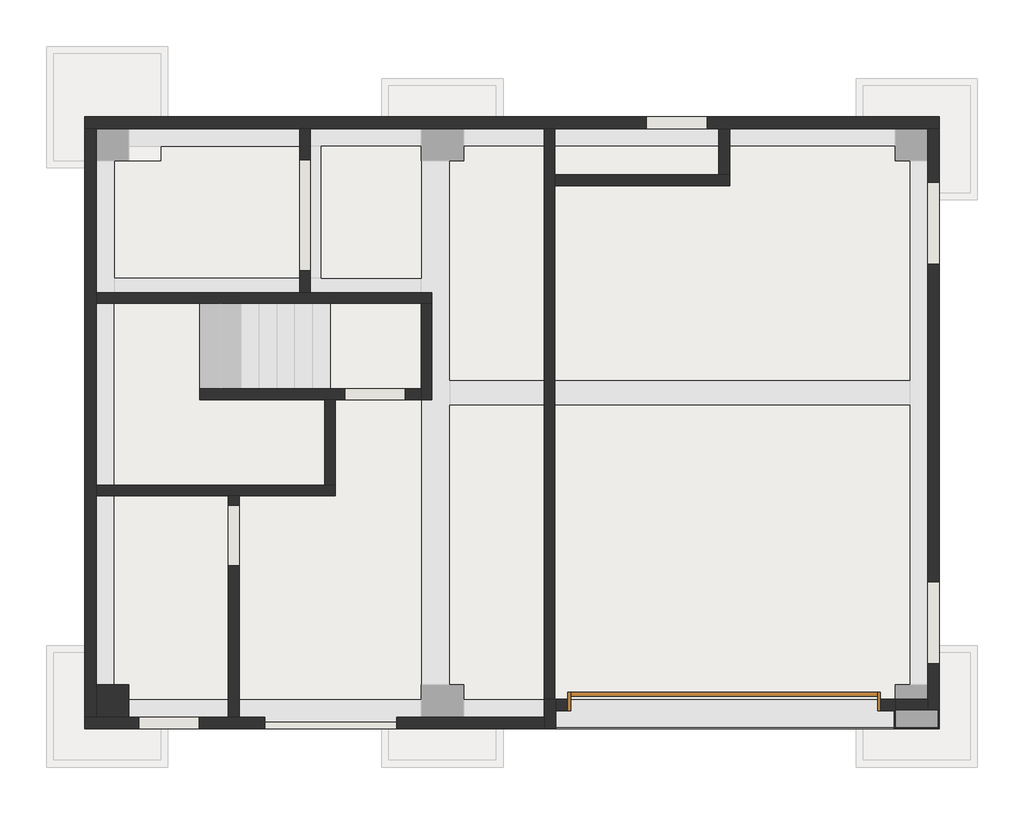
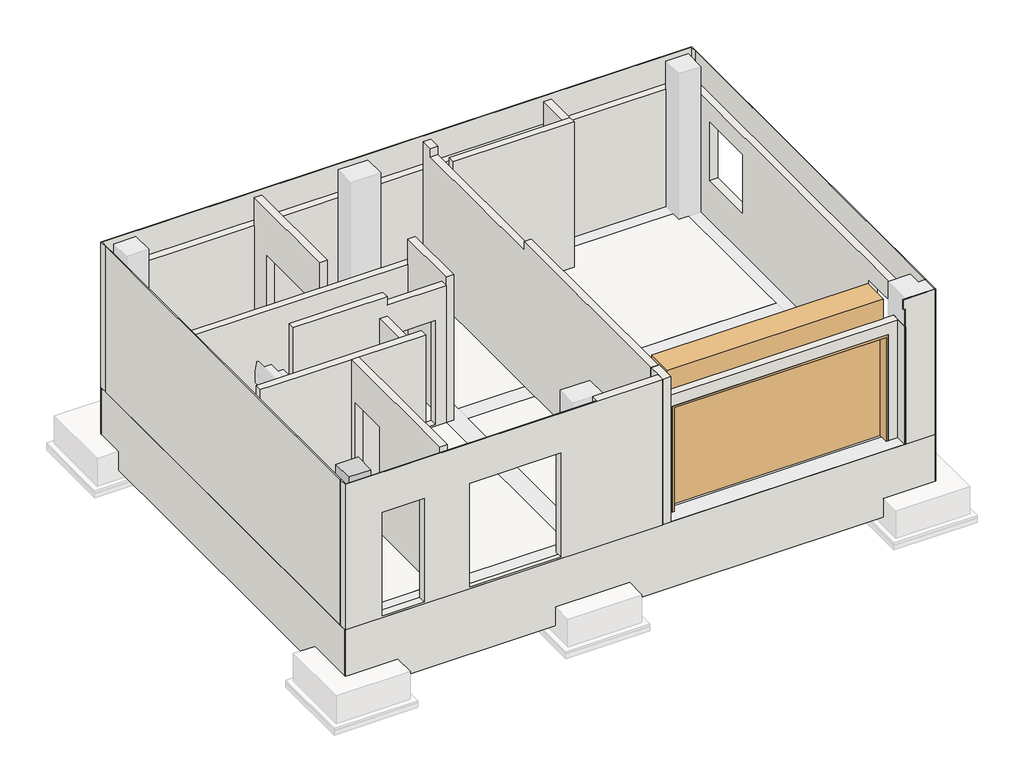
# One storey, part 1 of 2: 26 walls, 5 slabs, 1 column, 1 door.
"""IFC4 building model written with IfcOpenShell, lengths in millimetres."""

from ifc_helpers import new_model, si_unit, frame, origin, origin_with_axes, place, context, project, spatial, polyline, outline, extrude, faceted_brep, transform, mapped, element, save
from components import w4300h2235_e8c8d852

model = new_model("IFC4")

# Units and contexts
model_context = context("Model", 3, world=origin())
ifc_project = project(units=[si_unit("LENGTHUNIT", "METRE", prefix="MILLI")], contexts=[model_context])

# Site, building, storey
site = spatial("IfcSite", under=ifc_project)
building = spatial("IfcBuilding", under=site)
storey = spatial("IfcBuildingStorey", under=building, Name="GL＝1SL", Elevation=0.0)

# Column
placement = place(None, origin())
element("IfcColumn", 1, ObjectType="角柱 : 600 x 600mm", at=placement, inside=storey, context=model_context, shape_type="Brep", body=[
    faceted_brep([(-3181.7658988, -4851.3998484, 3120.0), (-3181.7658988, -4401.3998484, 3120.0), (-3631.7658988, -4401.3998484, 3120.0), (-3631.7658988, -4851.3998484, 3120.0), (-3181.7658988, -4401.3998484, -1000.0), (-3181.7658988, -5001.3998484, -1000.0), (-3781.7658988, -5001.3998484, -1000.0), (-3781.7658988, -4401.3998484, -1000.0), (-3781.7658988, -4401.3998484, 0.0), (-3631.7658988, -4401.3998484, 0.0), (-3781.7658988, -5001.3998484, 0.0), (-3781.7658988, -4851.3998484, 0.0), (-3181.7658988, -5001.3998484, 0.0), (-3181.7658988, -4851.3998484, 0.0), (-3631.7658988, -4851.3998484, 2520.0), (-3631.7658988, -4851.3998484, 0.0)], [[[0, 1, 2, 3]], [[4, 5, 6, 7]], [[4, 7, 8, 9, 2, 1]], [[7, 6, 10, 11, 8]], [[6, 5, 12, 10]], [[5, 4, 1, 0, 13, 12]], [[13, 0, 3, 14, 15]], [[9, 15, 14, 3, 2]], [[11, 10, 12, 13, 15]], [[15, 9, 8, 11]]]),
])

# Door
w4300h2235_shape = w4300h2235_e8c8d852(model_context)
element("IfcDoor", 2, ObjectType="シャッター : W4300H2235", at=placement, inside=storey, context=model_context, shape_type="MappedRepresentation", body=[
    mapped(w4300h2235_shape, transform((5168.2341012, -4683.8998484, 0.0), x_axis=(1.0, 0.0, 0.0), y_axis=(0.0, 1.0, 0.0), z_axis=(0.0, 0.0, 1.0))),
])

# Slabs
element("IfcSlab", 3, ObjectType="一般180mm", at=placement, inside=storey, context=model_context, shape_type="Brep", body=[
    faceted_brep([(918.2341012, 948.6001516, -180.0), (918.2341012, -4601.3998484, -180.0), (-3381.7658988, -4601.3998484, -180.0), (-3381.7658988, 948.6001516, -180.0), (918.2341012, 948.6001516, 0.0), (-3381.7658988, 948.6001516, 0.0), (-3381.7658988, -4601.3998484, 0.0), (918.2341012, -4601.3998484, 0.0), (918.2341012, -401.3998484, 0.0), (918.2341012, -251.3998484, 0.0)], [[[0, 1, 2, 3]], [[4, 5, 6, 7, 8, 9]], [[1, 0, 4, 9, 8, 7]], [[2, 1, 7, 6]], [[3, 2, 6, 5]], [[0, 3, 5, 4]]]),
])
element("IfcSlab", 4, ObjectType="一般180mm", at=placement, inside=storey, context=model_context, shape_type="SweptSolid", body=[
    extrude(outline(polyline([(7768.2341012, -481.3998484), (7768.2341012, -4601.3998484), (1318.2341012, -4601.3998484), (1318.2341012, -481.3998484), (7768.2341012, -481.3998484)])), frame((0.0, 0.0, -180.0), z_axis=(0.0, 0.0, 1.0), x_axis=(1.0, 0.0, 0.0)), (0.0, 0.0, 1.0), 180.0),
])
element("IfcSlab", 5, ObjectType="一般180mm", at=placement, inside=storey, context=model_context, shape_type="SweptSolid", body=[
    extrude(outline(polyline([(7768.2341012, -131.3998484), (1318.2341012, -131.3998484), (1318.2341012, 3148.6001516), (7768.2341012, 3148.6001516), (7768.2341012, -131.3998484)])), frame((0.0, 0.0, -180.0), z_axis=(0.0, 0.0, 1.0), x_axis=(1.0, 0.0, 0.0)), (0.0, 0.0, 1.0), 180.0),
])
element("IfcSlab", 6, ObjectType="一般180mm", at=placement, inside=storey, context=model_context, shape_type="SweptSolid", body=[
    extrude(outline(polyline([(918.2341012, 1298.6001516), (-481.7658988, 1298.6001516), (-481.7658988, 3148.6001516), (918.2341012, 3148.6001516), (918.2341012, 1298.6001516)])), frame((0.0, 0.0, -180.0), z_axis=(0.0, 0.0, 1.0), x_axis=(1.0, 0.0, 0.0)), (0.0, 0.0, 1.0), 180.0),
])
element("IfcSlab", 7, ObjectType="一般180mm", at=placement, inside=storey, context=model_context, shape_type="Brep", body=[
    faceted_brep([(-781.7658988, 1298.6001516, -1400.0), (-3381.7658988, 1298.6001516, -1400.0), (-3381.7658988, 3148.6001516, -1400.0), (-2731.7658988, 3148.6001516, -1400.0), (-781.7658988, 3148.6001516, -1400.0), (-781.7658988, 1298.6001516, -1220.0), (-781.7658988, 3148.6001516, -1220.0), (-3381.7658988, 3148.6001516, -1220.0), (-3381.7658988, 1298.6001516, -1220.0)], [[[0, 1, 2, 3, 4]], [[5, 6, 7, 8]], [[1, 0, 5, 8]], [[2, 1, 8, 7]], [[4, 3, 2, 7, 6]], [[0, 4, 6, 5]]]),
])

# Walls
element("IfcWall", 8, ObjectType="外壁-150mm+15mm", at=placement, inside=storey, context=model_context, shape_type="Brep", body=[
    faceted_brep([(-3796.7658988, 3398.6001516, 0.0), (-3631.7658988, 3398.6001516, 0.0), (-3181.7658988, 3398.6001516, 0.0), (-781.7658988, 3398.6001516, 0.0), (-631.7658988, 3398.6001516, 0.0), (918.2341012, 3398.6001516, 0.0), (1518.2341012, 3398.6001516, 0.0), (2718.2341012, 3398.6001516, 0.0), (2793.2341012, 3398.6001516, 0.0), (5093.2341012, 3398.6001516, 0.0), (5243.2341012, 3398.6001516, 0.0), (7568.2341012, 3398.6001516, 0.0), (8018.2341012, 3398.6001516, 0.0), (8183.2341012, 3398.6001516, 0.0), (8183.2341012, 3398.6001516, 3120.0), (8168.2341012, 3398.6001516, 3120.0), (8168.2341012, 3398.6001516, 2520.0), (8018.2341012, 3398.6001516, 2520.0), (-3631.7658988, 3398.6001516, 2520.0), (-3781.7658988, 3398.6001516, 2520.0), (-3781.7658988, 3398.6001516, 3120.0), (-3796.7658988, 3398.6001516, 3120.0), (4928.2341012, 3398.6001516, 2260.0), (4928.2341012, 3398.6001516, 35.0), (4078.2341012, 3398.6001516, 35.0), (4078.2341012, 3398.6001516, 2260.0), (8183.2341012, 3563.6001516, 0.0), (-3796.7658988, 3563.6001516, 0.0), (-3796.7658988, 3563.6001516, 3120.0), (-616.7658988, 3563.6001516, 3120.0), (8183.2341012, 3563.6001516, 3120.0), (4928.2341012, 3563.6001516, 35.0), (4928.2341012, 3563.6001516, 2260.0), (4078.2341012, 3563.6001516, 2260.0), (4078.2341012, 3563.6001516, 35.0), (-3796.7658988, 3548.6001516, 0.0), (8183.2341012, 3548.6001516, 0.0), (-3781.7658988, 3548.6001516, 3120.0), (7768.2341012, 3548.6001516, 3120.0), (8168.2341012, 3548.6001516, 3120.0), (-3781.7658988, 3548.6001516, 2520.0), (7768.2341012, 3548.6001516, 2520.0), (8168.2341012, 3548.6001516, 2520.0)], [[[0, 1, 2, 3, 4, 5, 6, 7, 8, 9, 10, 11, 12, 13, 14, 15, 16, 17, 18, 19, 20, 21], [22, 23, 24, 25]], [[26, 27, 28, 29, 30], [31, 32, 33, 34]], [[13, 12, 11, 10, 9, 8, 7, 6, 5, 4, 3, 2, 1, 0, 35, 27, 26, 36]], [[30, 29, 28, 21, 20, 37, 38, 39, 15, 14]], [[14, 13, 36, 26, 30]], [[0, 21, 28, 27, 35]], [[23, 22, 32, 31]], [[24, 23, 31, 34]], [[25, 24, 34, 33]], [[22, 25, 33, 32]], [[37, 40, 41, 42, 39, 38]], [[42, 41, 40, 19, 18, 17, 16]], [[40, 37, 20, 19]], [[39, 42, 16, 15]]]),
])
element("IfcWall", 9, ObjectType="外壁-150mm+15mm", at=placement, inside=storey, context=model_context, shape_type="Brep", body=[
    faceted_brep([(8018.2341012, 3398.6001516, 0.0), (8018.2341012, 2948.6001516, 0.0), (8018.2341012, -4401.3998484, 0.0), (8018.2341012, -4601.3998484, 0.0), (8018.2341012, -4751.3998484, 0.0), (8018.2341012, -4751.3998484, 2520.0), (8018.2341012, -4601.3998484, 2520.0), (8018.2341012, 3398.6001516, 2520.0), (8018.2341012, 1498.6001516, 2110.0), (8018.2341012, 1498.6001516, 860.0), (8018.2341012, 2648.6001516, 860.0), (8018.2341012, 2648.6001516, 2110.0), (8018.2341012, -4101.3998484, 2110.0), (8018.2341012, -4101.3998484, 860.0), (8018.2341012, -2951.3998484, 860.0), (8018.2341012, -2951.3998484, 2110.0), (8183.2341012, -4751.3998484, 0.0), (8183.2341012, 3398.6001516, 0.0), (8183.2341012, 3398.6001516, 3120.0), (8183.2341012, 3378.6001516, 3120.0), (8183.2341012, -221.3998484, 3120.0), (8183.2341012, -4676.3998484, 3120.0), (8183.2341012, -4676.3998484, 2520.0), (8183.2341012, -4751.3998484, 2520.0), (8183.2341012, 1498.6001516, 860.0), (8183.2341012, 1498.6001516, 2110.0), (8183.2341012, 2648.6001516, 2110.0), (8183.2341012, 2648.6001516, 860.0), (8183.2341012, -4101.3998484, 860.0), (8183.2341012, -4101.3998484, 2110.0), (8183.2341012, -2951.3998484, 2110.0), (8183.2341012, -2951.3998484, 860.0), (8168.2341012, -4751.3998484, 0.0), (8168.2341012, 3398.6001516, 3120.0), (8168.2341012, -4601.3998484, 3120.0), (8168.2341012, -4676.3998484, 3120.0), (8168.2341012, 3398.6001516, 2520.0), (8168.2341012, -4601.3998484, 2520.0), (8168.2341012, -4676.3998484, 2520.0), (8168.2341012, -4751.3998484, 2520.0)], [[[0, 1, 2, 3, 4, 5, 6, 7], [8, 9, 10, 11], [12, 13, 14, 15]], [[16, 17, 18, 19, 20, 21, 22, 23], [24, 25, 26, 27], [28, 29, 30, 31]], [[4, 3, 2, 1, 0, 17, 16, 32]], [[21, 20, 19, 18, 33, 34, 35]], [[18, 17, 0, 7, 36, 33]], [[9, 8, 25, 24]], [[10, 9, 24, 27]], [[11, 10, 27, 26]], [[8, 11, 26, 25]], [[13, 12, 29, 28]], [[14, 13, 28, 31]], [[15, 14, 31, 30]], [[12, 15, 30, 29]], [[36, 37, 38, 35, 34, 33]], [[22, 21, 35, 38]], [[23, 22, 38, 37, 36, 7, 6, 5, 39]], [[23, 39, 5, 4, 32, 16]]]),
])
element("IfcWall", 10, ObjectType="外壁-150mm+15mm", at=placement, inside=storey, context=model_context, shape_type="Brep", body=[
    faceted_brep([(-3796.7658988, -4851.3998484, 0.0), (-3796.7658988, -4851.3998484, 3120.0), (-3781.7658988, -4851.3998484, 3120.0), (-3781.7658988, -4851.3998484, 2520.0), (-3631.7658988, -4851.3998484, 2520.0), (1318.2341012, -4851.3998484, 2520.0), (1318.2341012, -4851.3998484, 3120.0), (1518.2341012, -4851.3998484, 3120.0), (2643.2341012, -4851.3998484, 3120.0), (2643.2341012, -4851.3998484, 35.0), (578.2341012, -4851.3998484, 35.0), (578.2341012, -4851.3998484, 2260.0), (-1271.7658988, -4851.3998484, 2260.0), (-1271.7658988, -4851.3998484, 35.0), (-1706.7658988, -4851.3998484, 35.0), (-1706.7658988, -4851.3998484, 0.0), (-1781.7658988, -4851.3998484, 0.0), (-3181.7658988, -4851.3998484, 0.0), (-3631.7658988, -4851.3998484, 0.0), (-3041.7658988, -4851.3998484, 2260.0), (-3041.7658988, -4851.3998484, 35.0), (-2191.7658988, -4851.3998484, 35.0), (-2191.7658988, -4851.3998484, 2260.0), (-3796.7658988, -5016.3998484, 0.0), (2643.2341012, -5016.3998484, 0.0), (2643.2341012, -5016.3998484, 3120.0), (1083.2341012, -5016.3998484, 3120.0), (-3611.7658988, -5016.3998484, 3120.0), (-3796.7658988, -5016.3998484, 3120.0), (-3041.7658988, -5016.3998484, 35.0), (-3041.7658988, -5016.3998484, 2260.0), (-2191.7658988, -5016.3998484, 2260.0), (-2191.7658988, -5016.3998484, 35.0), (-1271.7658988, -5016.3998484, 35.0), (-1271.7658988, -5016.3998484, 2260.0), (578.2341012, -5016.3998484, 2260.0), (578.2341012, -5016.3998484, 35.0), (-1706.7658988, -4926.3998484, 0.0), (2643.2341012, -4926.3998484, 0.0), (1318.2341012, -5001.3998484, 3120.0), (-3781.7658988, -5001.3998484, 3120.0), (-1271.7658988, -4926.3998484, 35.0), (578.2341012, -4926.3998484, 35.0), (2643.2341012, -4926.3998484, 35.0), (1318.2341012, -5001.3998484, 2520.0), (-3781.7658988, -5001.3998484, 2520.0), (-1706.7658988, -4926.3998484, 35.0)], [[[0, 1, 2, 3, 4, 5, 6, 7, 8, 9, 10, 11, 12, 13, 14, 15, 16, 17, 18], [19, 20, 21, 22]], [[23, 24, 25, 26, 27, 28], [29, 30, 31, 32], [33, 34, 35, 36]], [[24, 23, 0, 18, 17, 16, 15, 37, 38]], [[28, 27, 26, 25, 8, 7, 6, 39, 40, 2, 1]], [[1, 0, 23, 28]], [[20, 19, 30, 29]], [[21, 20, 29, 32]], [[22, 21, 32, 31]], [[19, 22, 31, 30]], [[13, 12, 34, 33, 41]], [[33, 36, 42, 41]], [[11, 10, 42, 36, 35]], [[12, 11, 35, 34]], [[8, 25, 24, 38, 43, 9]], [[39, 44, 45, 40]], [[45, 44, 5, 4, 3]], [[44, 39, 6, 5]], [[40, 45, 3, 2]], [[41, 46, 14, 13]], [[43, 42, 10, 9]], [[37, 46, 41, 42, 43, 38]], [[46, 37, 15, 14]]]),
])
element("IfcWall", 11, ObjectType="外壁-150mm+15mm", at=placement, inside=storey, context=model_context, shape_type="Brep", body=[
    faceted_brep([(-3631.7658988, -4851.3998484, 0.0), (-3631.7658988, -4401.3998484, 0.0), (-3631.7658988, -1751.3998484, 0.0), (-3631.7658988, -1601.3998484, 0.0), (-3631.7658988, 948.6001516, 0.0), (-3631.7658988, 1098.6001516, 0.0), (-3631.7658988, 2948.6001516, 0.0), (-3631.7658988, 3398.6001516, 0.0), (-3631.7658988, 3398.6001516, 2520.0), (-3631.7658988, -4851.3998484, 2520.0), (-3796.7658988, 3398.6001516, 0.0), (-3796.7658988, -4851.3998484, 0.0), (-3796.7658988, -4851.3998484, 3120.0), (-3796.7658988, -1686.3998484, 3120.0), (-3796.7658988, 3398.6001516, 3120.0), (-3781.7658988, -4851.3998484, 3120.0), (-3781.7658988, -4601.3998484, 3120.0), (-3781.7658988, 3148.6001516, 3120.0), (-3781.7658988, 3398.6001516, 3120.0), (-3781.7658988, 3398.6001516, 2520.0), (-3781.7658988, -4851.3998484, 2520.0), (-3781.7658988, -4601.3998484, 2520.0), (-3781.7658988, 3148.6001516, 2520.0)], [[[0, 1, 2, 3, 4, 5, 6, 7, 8, 9]], [[10, 11, 12, 13, 14]], [[7, 6, 5, 4, 3, 2, 1, 0, 11, 10]], [[14, 13, 12, 15, 16, 17, 18]], [[7, 10, 14, 18, 19, 8]], [[12, 11, 0, 9, 20, 15]], [[20, 21, 22, 19, 18, 17, 16, 15]], [[19, 22, 21, 20, 9, 8]]]),
])
element("IfcWall", 12, ObjectType="標準-150mm", at=placement, inside=storey, context=model_context, shape_type="Brep", body=[
    faceted_brep([(-3631.7658988, 948.6001516, 0.0), (-3381.7658988, 948.6001516, 0.0), (918.2341012, 948.6001516, 0.0), (1068.2341012, 948.6001516, 0.0), (1068.2341012, 948.6001516, 2570.0), (918.2341012, 948.6001516, 2570.0), (-3381.7658988, 948.6001516, 2570.0), (-3631.7658988, 948.6001516, 2570.0), (1068.2341012, 1098.6001516, 0.0), (-631.7658988, 1098.6001516, 0.0), (-781.7658988, 1098.6001516, 0.0), (-3631.7658988, 1098.6001516, 0.0), (-3631.7658988, 1098.6001516, 2570.0), (1068.2341012, 1098.6001516, 2570.0)], [[[0, 1, 2, 3, 4, 5, 6, 7]], [[8, 9, 10, 11, 12, 13]], [[3, 2, 1, 0, 11, 10, 9, 8]], [[11, 0, 7, 12]], [[3, 8, 13, 4]], [[7, 6, 5, 4, 13, 12]]]),
])
element("IfcWall", 13, ObjectType="標準-150mm", at=placement, inside=storey, context=model_context, shape_type="SweptSolid", body=[
    extrude(outline(polyline([(1098.6001516, 0.0), (1098.6001516, 3120.0), (3398.6001516, 3120.0), (3398.6001516, 0.0), (1098.6001516, 0.0)]), holes=[polyline([(2958.6001516, 2135.0), (1408.6001516, 2135.0), (1408.6001516, 35.0), (2958.6001516, 35.0), (2958.6001516, 2135.0)])]), frame((-781.7658988, 0.0, 0.0), z_axis=(1.0, 0.0, 0.0), x_axis=(0.0, 1.0, 0.0)), (0.0, 0.0, 1.0), 150.0),
])
element("IfcWall", 14, ObjectType="外壁-150mm+15mm", at=placement, inside=storey, context=model_context, shape_type="Brep", body=[
    faceted_brep([(2808.2341012, -5016.3998484, 3120.0), (2808.2341012, -5016.3998484, 2910.0), (2808.2341012, -5016.3998484, 2520.0), (2808.2341012, -5016.3998484, 2505.0), (2808.2341012, -5016.3998484, 0.0), (2808.2341012, -4766.3998484, 0.0), (2808.2341012, -4601.3998484, 0.0), (2808.2341012, -4601.3998484, 2520.0), (2808.2341012, -4601.3998484, 3120.0), (2643.2341012, -5016.3998484, 0.0), (2643.2341012, -5016.3998484, 3120.0), (2643.2341012, -4851.3998484, 3120.0), (2643.2341012, -4601.3998484, 3120.0), (2643.2341012, -4601.3998484, 35.0), (2643.2341012, -4601.3998484, 0.0), (2643.2341012, -4926.3998484, 0.0), (2718.2341012, -4601.3998484, 0.0), (2793.2341012, -4601.3998484, 0.0), (2793.2341012, -4601.3998484, 3120.0)], [[[0, 1, 2, 3, 4, 5, 6, 7, 8]], [[9, 10, 11, 12, 13, 14, 15]], [[6, 5, 4, 9, 15, 14, 16, 17]], [[0, 8, 18, 12, 11, 10]], [[8, 7, 6, 17, 16, 14, 13, 12, 18]], [[0, 10, 9, 4, 3, 2, 1]]]),
])
element("IfcWall", 15, ObjectType="標準-150mm", at=placement, inside=storey, context=model_context, shape_type="Brep", body=[
    faceted_brep([(2793.2341012, 2598.6001516, 0.0), (5243.2341012, 2598.6001516, 0.0), (5243.2341012, 2598.6001516, 3120.0), (2793.2341012, 2598.6001516, 3120.0), (2793.2341012, 2748.6001516, 0.0), (2793.2341012, 2748.6001516, 3120.0), (5093.2341012, 2748.6001516, 3120.0), (5243.2341012, 2748.6001516, 3120.0), (5243.2341012, 2748.6001516, 0.0), (5093.2341012, 2748.6001516, 0.0)], [[[0, 1, 2, 3]], [[4, 5, 6, 7, 8, 9]], [[1, 0, 4, 9, 8]], [[3, 2, 7, 6, 5]], [[0, 3, 5, 4]], [[2, 1, 8, 7]]]),
])
element("IfcWall", 16, ObjectType="標準-150mm", at=placement, inside=storey, context=model_context, shape_type="SweptSolid", body=[
    extrude(outline(polyline([(5243.2341012, 3398.6001516), (5243.2341012, 2748.6001516), (5093.2341012, 2748.6001516), (5093.2341012, 3398.6001516), (5243.2341012, 3398.6001516)])), origin_with_axes(), (0.0, 0.0, 1.0), 3120.0),
])
element("IfcWall", 17, ObjectType="標準-150mm", at=placement, inside=storey, context=model_context, shape_type="SweptSolid", body=[
    extrude(outline(polyline([(-4851.3998484, 0.0), (-4851.3998484, 3120.0), (-1751.3998484, 3120.0), (-1751.3998484, 0.0), (-4851.3998484, 0.0)]), holes=[polyline([(-1881.3998484, 2260.0), (-2731.3998484, 2260.0), (-2731.3998484, 35.0), (-1881.3998484, 35.0), (-1881.3998484, 2260.0)])]), frame((-1781.7658988, 0.0, 0.0), z_axis=(1.0, 0.0, 0.0), x_axis=(0.0, 1.0, 0.0)), (0.0, 0.0, 1.0), 150.0),
])
element("IfcWall", 18, ObjectType="標準-150mm", at=placement, inside=storey, context=model_context, shape_type="Brep", body=[
    faceted_brep([(-3631.7658988, -1601.3998484, 3120.0), (-281.7658988, -1601.3998484, 3120.0), (-281.7658988, -1601.3998484, 2701.5998259), (-281.7658988, -1601.3998484, 35.0), (-356.7658988, -1601.3998484, 35.0), (-356.7658988, -1601.3998484, 0.0), (-431.7658988, -1601.3998484, 0.0), (-3631.7658988, -1601.3998484, 0.0), (-281.7658988, -1751.3998484, 3120.0), (-1631.7658988, -1751.3998484, 3120.0), (-1781.7658988, -1751.3998484, 3120.0), (-3381.7658988, -1751.3998484, 3120.0), (-3631.7658988, -1751.3998484, 3120.0), (-3631.7658988, -1751.3998484, 0.0), (-1781.7658988, -1751.3998484, 0.0), (-1706.7658988, -1751.3998484, 0.0), (-1706.7658988, -1751.3998484, 35.0), (-281.7658988, -1751.3998484, 35.0), (-356.7658988, -1676.3998484, 0.0), (-1706.7658988, -1676.3998484, 0.0), (-1706.7658988, -1676.3998484, 35.0), (-356.7658988, -1676.3998484, 35.0)], [[[0, 1, 2, 3, 4, 5, 6, 7]], [[8, 9, 10, 11, 12, 13, 14, 15, 16, 17]], [[13, 7, 6, 5, 18, 19, 15, 14]], [[1, 0, 12, 11, 10, 9, 8]], [[0, 7, 13, 12]], [[1, 8, 17, 3, 2]], [[20, 21, 4, 3, 17, 16]], [[21, 20, 19, 18]], [[21, 18, 5, 4]], [[19, 20, 16, 15]]]),
])
element("IfcWall", 19, ObjectType="標準-150mm", at=placement, inside=storey, context=model_context, shape_type="SweptSolid", body=[
    extrude(outline(polyline([(2701.5998259, -281.7658988), (2701.5998259, -431.7658988), (0.0, -431.7658988), (0.0, -356.7658988), (35.0, -356.7658988), (35.0, -281.7658988), (2701.5998259, -281.7658988)])), frame((0.0, -1601.3998484, 0.0), z_axis=(0.0, 1.0, 0.0), x_axis=(0.0, 0.0, 1.0)), (0.0, 0.0, 1.0), 1200.0),
])
element("IfcWall", 20, ObjectType="標準-150mm", at=placement, inside=storey, context=model_context, shape_type="Brep", body=[
    faceted_brep([(918.2341012, 948.6001516, 0.0), (918.2341012, -251.3998484, 0.0), (918.2341012, -401.3998484, 0.0), (918.2341012, -401.3998484, 3120.0), (918.2341012, -251.3998484, 3120.0), (918.2341012, 948.6001516, 3120.0), (1068.2341012, 948.6001516, 0.0), (1068.2341012, 948.6001516, 3120.0), (1068.2341012, -401.3998484, 3120.0), (1068.2341012, -401.3998484, 0.0)], [[[0, 1, 2, 3, 4, 5]], [[6, 7, 8, 9]], [[2, 1, 0, 6, 9]], [[5, 4, 3, 8, 7]], [[0, 5, 7, 6]], [[3, 2, 9, 8]]]),
])
element("IfcWall", 21, ObjectType="標準-150mm", at=placement, inside=storey, context=model_context, shape_type="Brep", body=[
    faceted_brep([(918.2341012, -251.3998484, 0.0), (-2181.7658988, -251.3998484, 0.0), (-2181.7658988, -251.3998484, 3120.0), (-391.7658988, -251.3998484, 3120.0), (-281.7658988, -251.3998484, 3120.0), (-281.7658988, -251.3998484, 2940.0), (918.2341012, -251.3998484, 2940.0), (-151.7658988, -251.3998484, 2260.0), (-151.7658988, -251.3998484, 35.0), (698.2341012, -251.3998484, 35.0), (698.2341012, -251.3998484, 2260.0), (-2181.7658988, -401.3998484, 0.0), (-431.7658988, -401.3998484, 0.0), (-356.7658988, -401.3998484, 0.0), (918.2341012, -401.3998484, 0.0), (918.2341012, -401.3998484, 2940.0), (-281.7658988, -401.3998484, 2940.0), (-281.7658988, -401.3998484, 3120.0), (-356.7658988, -401.3998484, 3120.0), (-2181.7658988, -401.3998484, 3120.0), (-151.7658988, -401.3998484, 35.0), (-151.7658988, -401.3998484, 2260.0), (698.2341012, -401.3998484, 2260.0), (698.2341012, -401.3998484, 35.0)], [[[0, 1, 2, 3, 4, 5, 6], [7, 8, 9, 10]], [[11, 12, 13, 14, 15, 16, 17, 18, 19], [20, 21, 22, 23]], [[1, 0, 14, 13, 12, 11]], [[2, 1, 11, 19]], [[2, 19, 18, 17, 4, 3]], [[14, 0, 6, 15]], [[8, 7, 21, 20]], [[9, 8, 20, 23]], [[10, 9, 23, 22]], [[7, 10, 22, 21]], [[5, 16, 15, 6]], [[16, 5, 4, 17]]]),
])
element("IfcWall", 22, ObjectType="標準-150mm", at=placement, inside=storey, context=model_context, shape_type="Brep", body=[
    faceted_brep([(-3381.7658988, 1148.6001516, -1400.0), (-631.7658988, 1148.6001516, -1400.0), (-631.7658988, 1148.6001516, -550.0), (-3381.7658988, 1148.6001516, -550.0), (-3381.7658988, 1298.6001516, -1400.0), (-3381.7658988, 1298.6001516, -1220.0), (-3381.7658988, 1298.6001516, -550.0), (-631.7658988, 1298.6001516, -550.0), (-631.7658988, 1298.6001516, -1400.0), (-781.7658988, 1298.6001516, -1400.0)], [[[0, 1, 2, 3]], [[4, 5, 6, 7, 8, 9]], [[1, 0, 4, 9, 8]], [[3, 2, 7, 6]], [[0, 3, 6, 5, 4]], [[2, 1, 8, 7]]]),
])
element("IfcWall", 23, ObjectType="標準-150mm", at=placement, inside=storey, context=model_context, shape_type="Brep", body=[
    faceted_brep([(-631.7658988, 1298.6001516, -1400.0), (-631.7658988, 3148.6001516, -1400.0), (-631.7658988, 3148.6001516, -500.0), (-631.7658988, 1298.6001516, -500.0), (-631.7658988, 1298.6001516, -550.0), (-781.7658988, 1298.6001516, -1400.0), (-781.7658988, 1298.6001516, -500.0), (-781.7658988, 3148.6001516, -500.0), (-781.7658988, 3148.6001516, -1400.0)], [[[0, 1, 2, 3, 4]], [[5, 6, 7, 8]], [[1, 0, 5, 8]], [[2, 1, 8, 7]], [[3, 2, 7, 6]], [[0, 4, 3, 6, 5]]]),
])
element("IfcWall", 24, ObjectType="標準-150mm", at=placement, inside=storey, context=model_context, shape_type="Brep", body=[
    faceted_brep([(8018.2341012, -4601.3998484, 0.0), (7568.2341012, -4601.3998484, 0.0), (7568.2341012, -4601.3998484, 2520.0), (8018.2341012, -4601.3998484, 2520.0), (8018.2341012, -4751.3998484, 0.0), (8018.2341012, -4751.3998484, 2520.0), (7568.2341012, -4751.3998484, 2520.0), (7568.2341012, -4751.3998484, 0.0), (8018.2341012, -4676.3998484, 2520.0)], [[[0, 1, 2, 3]], [[4, 5, 6, 7]], [[1, 0, 4, 7]], [[2, 1, 7, 6]], [[3, 2, 6, 5, 8]], [[0, 3, 8, 5, 4]]]),
])
element("IfcWall", 25, ObjectType="増し打ち-15mm", at=placement, inside=storey, context=model_context, shape_type="Brep", body=[
    faceted_brep([(7568.2234548, -5016.3998484, 2520.0), (7568.2234548, -5016.3998484, 0.0), (7568.2234548, -5001.3998484, 0.0), (7568.2234548, -4766.3998484, 0.0), (7568.2234548, -4766.3998484, 2520.0), (7568.2234548, -5001.3998484, 2520.0), (7553.2234548, -5016.3998484, 0.0), (7553.2234548, -5016.3998484, 2505.0), (7553.2234548, -5016.3998484, 2520.0), (7553.2234548, -4766.3998484, 2520.0), (7553.2234548, -4766.3998484, 2505.0), (7553.2234548, -4766.3998484, 0.0), (7560.7234548, -5016.3998484, 2520.0)], [[[0, 1, 2, 3, 4, 5]], [[6, 7, 8, 9, 10, 11]], [[1, 6, 11, 3, 2]], [[8, 12, 0, 5, 4, 9]], [[1, 0, 12, 8, 7, 6]], [[4, 3, 11, 10, 9]]]),
])
element("IfcWall", 26, ObjectType="標準-150mm", at=placement, inside=storey, context=model_context, shape_type="Brep", body=[
    faceted_brep([(2793.2341012, -4601.3998484, 0.0), (2793.2341012, 2598.6001516, 0.0), (2793.2341012, 2748.6001516, 0.0), (2793.2341012, 3398.6001516, 0.0), (2793.2341012, 3398.6001516, 3120.0), (2793.2341012, 3148.6001516, 3120.0), (2793.2341012, 3148.6001516, 2940.0), (2793.2341012, -143.8998484, 2940.0), (2793.2341012, -143.8998484, 3120.0), (2793.2341012, -4601.3998484, 3120.0), (2643.2341012, -4601.3998484, 3120.0), (2643.2341012, -143.8998484, 3120.0), (2643.2341012, -143.8998484, 2940.0), (2643.2341012, 3148.6001516, 2940.0), (2643.2341012, 3148.6001516, 3120.0), (2643.2341012, 3398.6001516, 3120.0), (2643.2341012, 3398.6001516, 35.0), (2643.2341012, -4601.3998484, 35.0), (2718.2341012, -4601.3998484, 0.0), (2718.2341012, 3398.6001516, 0.0), (2718.2341012, -4601.3998484, 35.0), (2718.2341012, 3398.6001516, 35.0)], [[[0, 1, 2, 3, 4, 5, 6, 7, 8, 9]], [[10, 11, 12, 13, 14, 15, 16, 17]], [[3, 2, 1, 0, 18, 19]], [[4, 15, 14, 5]], [[10, 9, 8, 11]], [[0, 9, 10, 17, 20, 18]], [[4, 3, 19, 21, 16, 15]], [[6, 13, 12, 7]], [[7, 12, 11, 8]], [[13, 6, 5, 14]], [[21, 20, 17, 16]], [[20, 21, 19, 18]]]),
])
element("IfcWall", 27, ObjectType="増し打ち-15mm", at=placement, inside=storey, context=model_context, shape_type="Brep", body=[
    faceted_brep([(8168.2341012, -4751.3998484, 0.0), (8168.2341012, -5001.3998484, 0.0), (8168.2341012, -5016.3998484, 0.0), (8168.2341012, -5016.3998484, 3120.0), (8168.2341012, -5001.3998484, 3120.0), (8168.2341012, -4676.3998484, 3120.0), (8168.2341012, -4676.3998484, 2520.0), (8168.2341012, -4751.3998484, 2520.0), (8183.2341012, -4751.3998484, 0.0), (8183.2341012, -4751.3998484, 2520.0), (8183.2341012, -4676.3998484, 2520.0), (8183.2341012, -4676.3998484, 3120.0), (8183.2341012, -5016.3998484, 3120.0), (8183.2341012, -5016.3998484, 0.0)], [[[0, 1, 2, 3, 4, 5, 6, 7]], [[8, 9, 10, 11, 12, 13]], [[2, 1, 0, 8, 13]], [[5, 4, 3, 12, 11]], [[3, 2, 13, 12]], [[6, 5, 11, 10]], [[6, 10, 9, 7]], [[0, 7, 9, 8]]]),
])
element("IfcWall", 28, ObjectType="増し打ち-15mm", at=placement, inside=storey, context=model_context, shape_type="Brep", body=[
    faceted_brep([(8168.2341012, -5001.3998484, 0.0), (7568.2234548, -5001.3998484, 0.0), (7568.2234548, -5001.3998484, 2520.0), (7560.7234548, -5001.3998484, 2520.0), (7560.7234548, -5001.3998484, 2910.0), (7518.2341012, -5001.3998484, 2910.0), (7518.2341012, -5001.3998484, 3120.0), (7568.2341012, -5001.3998484, 3120.0), (8168.2341012, -5001.3998484, 3120.0), (8168.2341012, -5016.3998484, 0.0), (8168.2341012, -5016.3998484, 3120.0), (7518.2341012, -5016.3998484, 3120.0), (7518.2341012, -5016.3998484, 3105.0), (7518.2341012, -5016.3998484, 2910.0), (7560.7234548, -5016.3998484, 2910.0), (7560.7234548, -5016.3998484, 2520.0), (7568.2234548, -5016.3998484, 2520.0), (7568.2234548, -5016.3998484, 0.0)], [[[0, 1, 2, 3, 4, 5, 6, 7, 8]], [[9, 10, 11, 12, 13, 14, 15, 16, 17]], [[1, 0, 9, 17]], [[8, 7, 6, 11, 10]], [[0, 8, 10, 9]], [[15, 3, 2, 16]], [[4, 3, 15, 14]], [[13, 5, 4, 14]], [[2, 1, 17, 16]], [[6, 5, 13, 12, 11]]]),
])
element("IfcWall", 29, ObjectType="増し打ち-15mm", at=placement, inside=storey, context=model_context, shape_type="Brep", body=[
    faceted_brep([(-3796.7658988, 3548.6001516, -1400.0), (-3781.7658988, 3548.6001516, -1400.0), (8168.2341012, 3548.6001516, -1400.0), (8183.2341012, 3548.6001516, -1400.0), (8183.2341012, 3548.6001516, 0.0), (8168.2341012, 3548.6001516, 0.0), (7568.2341012, 3548.6001516, 0.0), (1518.2341012, 3548.6001516, 0.0), (918.2341012, 3548.6001516, 0.0), (-3181.7658988, 3548.6001516, 0.0), (-3781.7658988, 3548.6001516, 0.0), (-3796.7658988, 3548.6001516, 0.0), (-3796.7658988, 3563.6001516, -1400.0), (-3796.7658988, 3563.6001516, 0.0), (8183.2341012, 3563.6001516, 0.0), (8183.2341012, 3563.6001516, -1400.0)], [[[0, 1, 2, 3, 4, 5, 6, 7, 8, 9, 10, 11]], [[12, 13, 14, 15]], [[3, 2, 1, 0, 12, 15]], [[11, 10, 9, 8, 7, 6, 5, 4, 14, 13]], [[0, 11, 13, 12]], [[4, 3, 15, 14]]]),
])
element("IfcWall", 30, ObjectType="増し打ち-15mm", at=placement, inside=storey, context=model_context, shape_type="Brep", body=[
    faceted_brep([(8168.2341012, 3548.6001516, -1400.0), (8168.2341012, -5001.3998484, -1400.0), (8168.2341012, -5016.3998484, -1400.0), (8168.2341012, -5016.3998484, 0.0), (8168.2341012, -5001.3998484, 0.0), (8168.2341012, -4751.3998484, 0.0), (8168.2341012, -4401.3998484, 0.0), (8168.2341012, 2948.6001516, 0.0), (8168.2341012, 3398.6001516, 0.0), (8168.2341012, 3548.6001516, 0.0), (8168.2341012, 3548.6001516, -1000.0), (8183.2341012, 3548.6001516, -1400.0), (8183.2341012, 3548.6001516, 0.0), (8183.2341012, 3398.6001516, 0.0), (8183.2341012, -4751.3998484, 0.0), (8183.2341012, -5016.3998484, 0.0), (8183.2341012, -5016.3998484, -1400.0)], [[[0, 1, 2, 3, 4, 5, 6, 7, 8, 9, 10]], [[11, 12, 13, 14, 15, 16]], [[2, 1, 0, 11, 16]], [[9, 8, 7, 6, 5, 4, 3, 15, 14, 13, 12]], [[3, 2, 16, 15]], [[0, 10, 9, 12, 11]]]),
])
element("IfcWall", 31, ObjectType="増し打ち-15mm", at=placement, inside=storey, context=model_context, shape_type="Brep", body=[
    faceted_brep([(8168.2341012, -5001.3998484, -1400.0), (-3781.7658988, -5001.3998484, -1400.0), (-3796.7658988, -5001.3998484, -1400.0), (-3796.7658988, -5001.3998484, 0.0), (-3781.7658988, -5001.3998484, 0.0), (-3181.7658988, -5001.3998484, 0.0), (918.2341012, -5001.3998484, 0.0), (1518.2341012, -5001.3998484, 0.0), (8168.2341012, -5001.3998484, 0.0), (8168.2341012, -5001.3998484, -1000.0), (8168.2341012, -5016.3998484, -1400.0), (8168.2341012, -5016.3998484, 0.0), (-3796.7658988, -5016.3998484, 0.0), (-3796.7658988, -5016.3998484, -1400.0)], [[[0, 1, 2, 3, 4, 5, 6, 7, 8, 9]], [[10, 11, 12, 13]], [[2, 1, 0, 10, 13]], [[8, 7, 6, 5, 4, 3, 12, 11]], [[0, 9, 8, 11, 10]], [[3, 2, 13, 12]]]),
])
element("IfcWall", 32, ObjectType="増し打ち-15mm", at=placement, inside=storey, context=model_context, shape_type="Brep", body=[
    faceted_brep([(-3781.7658988, -5001.3998484, -1400.0), (-3781.7658988, 3548.6001516, -1400.0), (-3781.7658988, 3548.6001516, -1000.0), (-3781.7658988, 3548.6001516, 0.0), (-3781.7658988, 3398.6001516, 0.0), (-3781.7658988, 2948.6001516, 0.0), (-3781.7658988, -4401.3998484, 0.0), (-3781.7658988, -4851.3998484, 0.0), (-3781.7658988, -5001.3998484, 0.0), (-3781.7658988, -5001.3998484, -1000.0), (-3796.7658988, -5001.3998484, -1400.0), (-3796.7658988, -5001.3998484, 0.0), (-3796.7658988, -4851.3998484, 0.0), (-3796.7658988, 3398.6001516, 0.0), (-3796.7658988, 3548.6001516, 0.0), (-3796.7658988, 3548.6001516, -1400.0)], [[[0, 1, 2, 3, 4, 5, 6, 7, 8, 9]], [[10, 11, 12, 13, 14, 15]], [[1, 0, 10, 15]], [[8, 7, 6, 5, 4, 3, 14, 13, 12, 11]], [[0, 9, 8, 11, 10]], [[3, 2, 1, 15, 14]]]),
])
element("IfcWall", 33, ObjectType="外壁-150mm+15mm", at=placement, inside=storey, context=model_context, shape_type="Brep", body=[
    faceted_brep([(7568.2341012, -4601.3998484, 0.0), (7358.2341012, -4601.3998484, 0.0), (7358.2341012, -4601.3998484, 2275.0), (2978.2341012, -4601.3998484, 2275.0), (2978.2341012, -4601.3998484, 0.0), (2808.2341012, -4601.3998484, 0.0), (2808.2341012, -4601.3998484, 2520.0), (7568.2341012, -4601.3998484, 2520.0), (7358.2341012, -4766.3998484, 2275.0), (7358.2341012, -4766.3998484, 0.0), (7553.2234548, -4766.3998484, 0.0), (7568.2341012, -4766.3998484, 0.0), (7568.2341012, -4766.3998484, 2520.0), (7553.2234548, -4766.3998484, 2520.0), (2808.2341012, -4766.3998484, 2520.0), (2808.2341012, -4766.3998484, 0.0), (2978.2341012, -4766.3998484, 0.0), (2978.2341012, -4766.3998484, 2275.0), (7568.2341012, -4751.3998484, 0.0), (7568.2341012, -4751.3998484, 2520.0)], [[[0, 1, 2, 3, 4, 5, 6, 7]], [[8, 9, 10, 11, 12, 13, 14, 15, 16, 17]], [[16, 15, 5, 4]], [[11, 10, 9, 1, 0, 18]], [[7, 6, 14, 13, 12, 19]], [[0, 7, 19, 12, 11, 18]], [[6, 5, 15, 14]], [[3, 2, 8, 17]], [[2, 1, 9, 8]], [[4, 3, 17, 16]]]),
])

save(model, "model.ifc")
